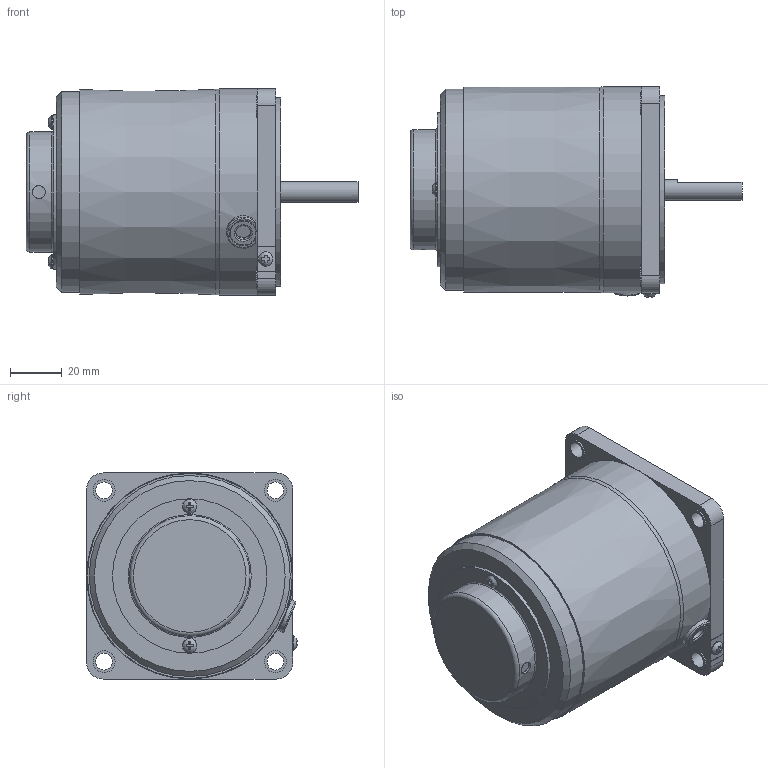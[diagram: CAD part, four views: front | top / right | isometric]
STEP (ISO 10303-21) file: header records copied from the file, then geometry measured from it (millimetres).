
FILE_DESCRIPTION(/* description */ (''),/* implementation_level */ '2;1');
FILE_NAME(/* name */ 'E:\도면작업\2016\0704) 미주향 SG 도면\3D MOTOR\SPEED CONTROL TYPE\SG8I(R)25D_-S12(24).stp',/* time_stamp */ '2017-08-21T11:07:11+09:00',/* author */ ('jy-jung'),/* organization */ (''),/* preprocessor_version */ 'ST-DEVELOPER v15.6',/* originating_system */ 'Autodesk Inventor 2015',/* authorisation */ '');
FILE_SCHEMA (('AUTOMOTIVE_DESIGN { 1 0 10303 214 3 1 1 }'));
Length unit declared in the file: millimetre
Products named in the file (1): 부품27
Bounding box: 128.8 x 81.76 x 80 mm (x, y, z)
Volume: 449262.4 mm3; surface area: 40261.9 mm2
Topology: 1 solids, 6 shells, 168 faces, 398 edges, 259 vertices
Faces by surface type: plane 106, cylinder 46, torus 10, bspline 3, cone 3
Full cylindrical faces by diameter (mm): 3 x2, 3.5 x2, 5 x1, 5.6 x3, 6 x1, 6.5 x4, 8 x1, 8.5 x4, 34 x1, 44.7 x1, 46.7 x1, 47.7 x1, 59.9 x1, 73 x1, 78 x1, 80 x1
Entity records: 5111 total; most frequent: CARTESIAN_POINT 1208, DIRECTION 744, ORIENTED_EDGE 710, EDGE_CURVE 355, AXIS2_PLACEMENT_3D 275, VERTEX_POINT 255, EDGE_LOOP 238, LINE 194
